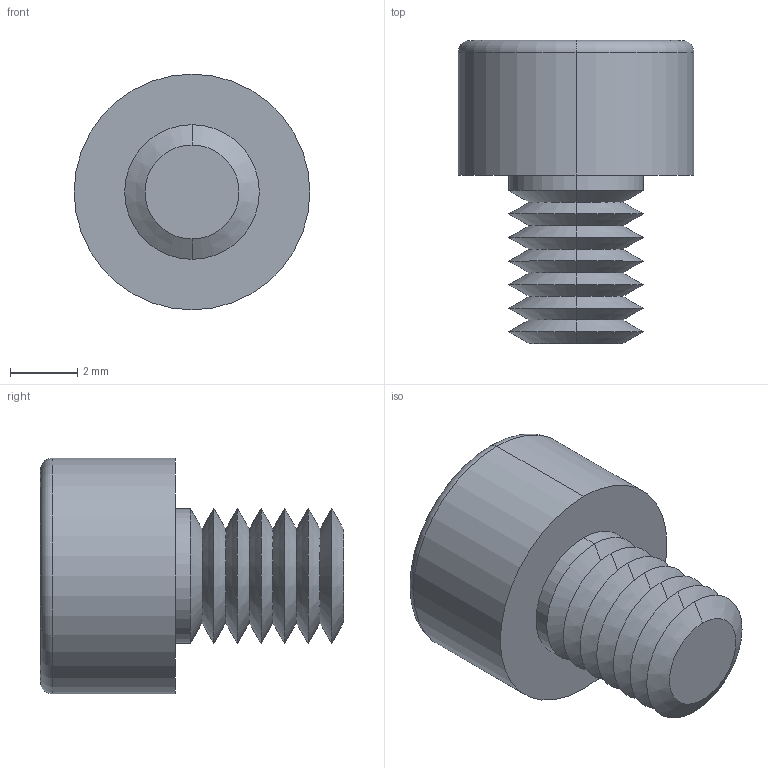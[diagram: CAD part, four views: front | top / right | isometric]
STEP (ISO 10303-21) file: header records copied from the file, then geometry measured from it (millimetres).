
FILE_DESCRIPTION (( 'STEP AP203' ), '1' );
FILE_NAME ('91N.040.0050.step', '2025-05-20T08:50:17', ( '' ), ( '' ), 'SwSTEP 2.0', 'SolidWorks 2019', '' );
FILE_SCHEMA (( 'CONFIG_CONTROL_DESIGN' ));
Length unit declared in the file: millimetre
Products named in the file (1): 91N.040.0050
Bounding box: 7 x 9 x 7 mm (x, y, z)
Volume: 175.2 mm3; surface area: 289.7 mm2
Topology: 1 solids, 1 shells, 56 faces, 111 edges, 57 vertices
Faces by surface type: cone 35, plane 15, cylinder 4, torus 2
Entity records: 1478 total; most frequent: DIRECTION 267, CARTESIAN_POINT 250, ORIENTED_EDGE 218, EDGE_CURVE 109, AXIS2_PLACEMENT_3D 108, EDGE_LOOP 58, VERTEX_POINT 57, FACE_OUTER_BOUND 56
